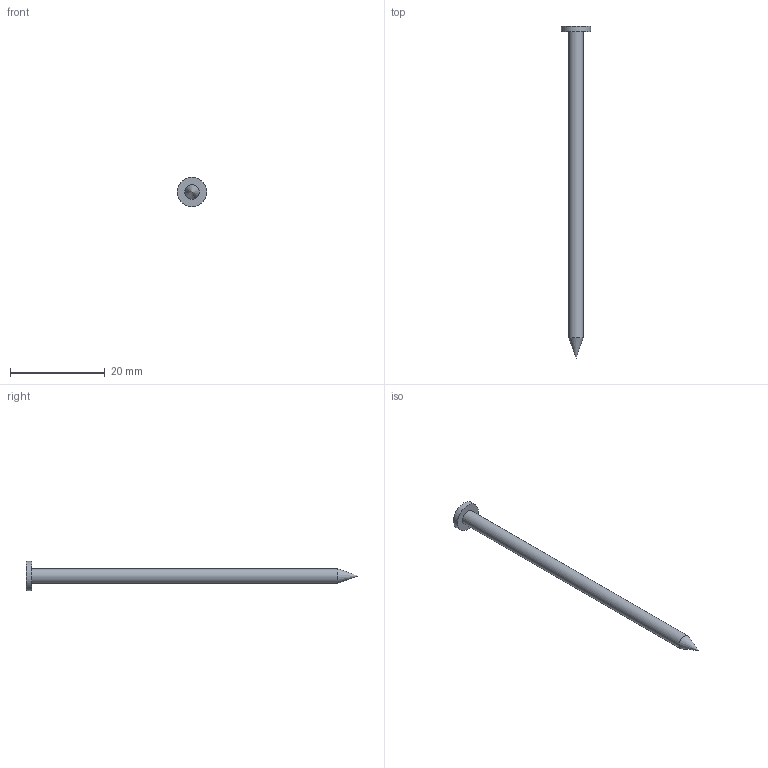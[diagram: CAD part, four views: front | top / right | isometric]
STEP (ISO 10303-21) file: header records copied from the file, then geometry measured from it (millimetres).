
FILE_DESCRIPTION(/* description */ ('STEP AP242 Edition 2','CAx-IF Rec.Pracs.---Representation and Presentation of Product Manufacturing Information (PMI)---4.0---2014-10-13','CAx-IF Rec.Pracs.---3D Tessellated Geometry---0.4---2014-09-14','2;1','CAx-IF Rec.Pracs.---User Defined Attributes---1.5---2016-08-15'),/* implementation_level */ '2;1');
FILE_NAME(/* name */ 'Final Build - Nail_31x70',/* time_stamp */ '2026-08-31T23:26:25Z',/* author */ (''),/* organization */ (''),/* preprocessor_version */ 'ST-DEVELOPER v20',/* originating_system */ 'ONSHAPE BY PTC INC, 1.220',/* authorisation */ ' ');
FILE_SCHEMA (('AP242_MANAGED_MODEL_BASED_3D_ENGINEERING_MIM_LF { 1 0 10303 442 3 1 4 }'));
Length unit declared in the file: metre
Products named in the file (1): Nail_31x70
Bounding box: 6.2 x 70 x 6.2 mm (x, y, z)
Volume: 534.2 mm3; surface area: 726.9 mm2
Topology: 1 solids, 1 shells, 5 faces, 9 edges, 6 vertices
Faces by surface type: cylinder 2, plane 2, cone 1
Full cylindrical faces by diameter (mm): 3.1 x1, 6.2 x1
Entity records: 120 total; most frequent: DIRECTION 20, CARTESIAN_POINT 15, AXIS2_PLACEMENT_3D 10, FACE_BOUND 9, ORIENTED_EDGE 8, EDGE_LOOP 8, VERTEX_POINT 5, ADVANCED_FACE 5
